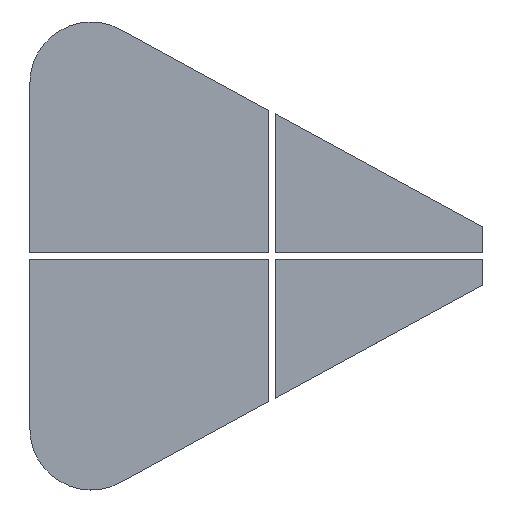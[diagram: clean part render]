
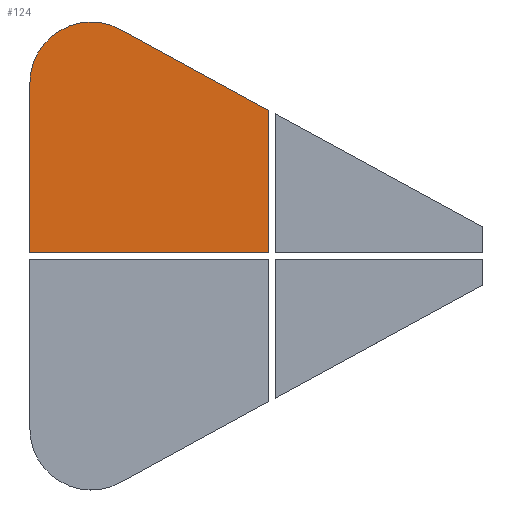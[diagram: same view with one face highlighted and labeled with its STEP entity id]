
A CAD part, top view. The second image highlights one B-rep face of the part: STEP entity #124.
In plain terms, the highlighted planar face has unit normal (0, 0, 1).
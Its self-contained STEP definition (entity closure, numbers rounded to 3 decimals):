
#124=ADVANCED_FACE('',(#350),#352,.T.);
#350=FACE_BOUND('',#351,.T.);
#351=EDGE_LOOP('',(#521,#522,#523,#524,#525));
#352=PLANE('',#353);
#353=AXIS2_PLACEMENT_3D('',#354,#355,#356);
#354=CARTESIAN_POINT('',(0.,0.,0.8));
#355=DIRECTION('',(0.,0.,1.));
#356=DIRECTION('',(1.,0.,0.));
#521=ORIENTED_EDGE('',*,*,#617,.T.);
#522=ORIENTED_EDGE('',*,*,#615,.T.);
#523=ORIENTED_EDGE('',*,*,#623,.T.);
#524=ORIENTED_EDGE('',*,*,#624,.T.);
#525=ORIENTED_EDGE('',*,*,#625,.T.);
#615=EDGE_CURVE('',#666,#671,#673,.T.);
#617=EDGE_CURVE('',#676,#666,#677,.F.);
#623=EDGE_CURVE('',#671,#684,#686,.T.);
#624=EDGE_CURVE('',#684,#687,#688,.T.);
#625=EDGE_CURVE('',#687,#676,#689,.F.);
#666=VERTEX_POINT('',#756);
#671=VERTEX_POINT('',#765);
#673=LINE('',#769,#770);
#676=VERTEX_POINT('',#776);
#677=LINE('',#777,#778);
#684=VERTEX_POINT('',#795);
#686=CIRCLE('',#799,40.);
#687=VERTEX_POINT('',#803);
#688=LINE('',#804,#805);
#689=LINE('',#807,#808);
#756=CARTESIAN_POINT('',(-139.023,94.883,0.8));
#765=CARTESIAN_POINT('',(-235.836,147.727,0.8));
#769=CARTESIAN_POINT('',(-139.023,94.883,0.8));
#770=VECTOR('',#771,1.);
#771=DIRECTION('',(-0.878,0.479,0.));
#776=CARTESIAN_POINT('',(-139.023,2.,0.8));
#777=CARTESIAN_POINT('',(-139.023,94.883,0.8));
#778=VECTOR('',#779,1.);
#779=DIRECTION('',(0.,-1.,0.));
#795=CARTESIAN_POINT('',(-295.,112.617,0.8));
#799=AXIS2_PLACEMENT_3D('',#800,#801,#802);
#800=CARTESIAN_POINT('',(-255.,112.617,0.8));
#801=DIRECTION('',(0.,0.,1.));
#802=DIRECTION('',(0.479,0.878,0.));
#803=CARTESIAN_POINT('',(-295.,2.,0.8));
#804=CARTESIAN_POINT('',(-295.,112.617,0.8));
#805=VECTOR('',#806,1.);
#806=DIRECTION('',(0.,-1.,0.));
#807=CARTESIAN_POINT('',(-139.023,2.,0.8));
#808=VECTOR('',#809,1.);
#809=DIRECTION('',(-1.,0.,0.));
